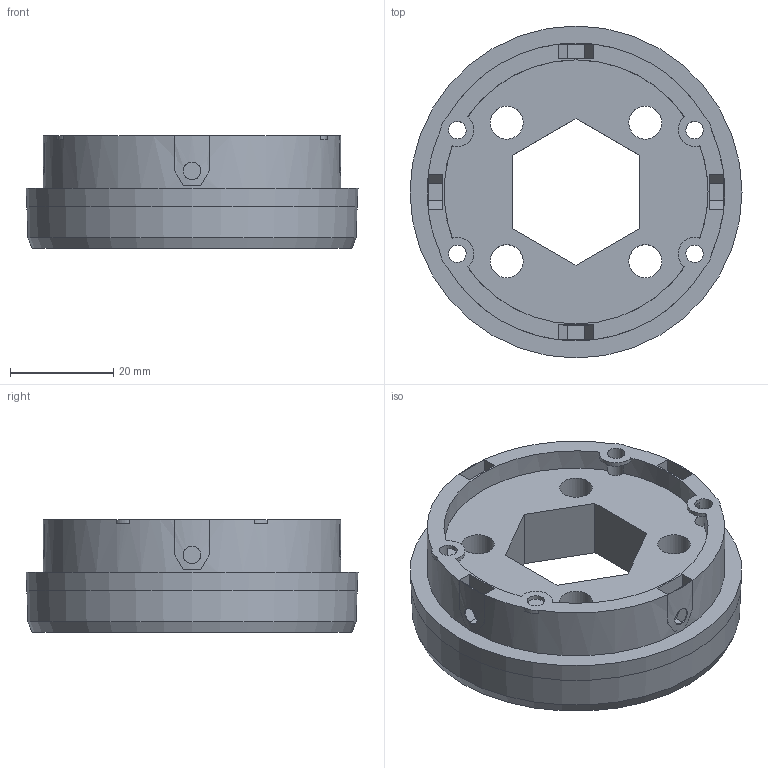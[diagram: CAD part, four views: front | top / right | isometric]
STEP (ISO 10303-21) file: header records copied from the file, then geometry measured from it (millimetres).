
FILE_DESCRIPTION(('FreeCAD Model'),'2;1');
FILE_NAME('Open CASCADE Shape Model','2026-09-19T17:54:12',('FreeCAD'),( 'FreeCAD'),'Open CASCADE STEP processor 7.8','FreeCAD','Unknown');
FILE_SCHEMA(('AUTOMOTIVE_DESIGN { 1 0 10303 214 1 1 1 1 }'));
Length unit declared in the file: millimetre
Products named in the file (1): Open CASCADE STEP translator 7.8 10
Bounding box: 64.36 x 64.36 x 21.8 mm (x, y, z)
Volume: 33866.2 mm3; surface area: 14106.1 mm2
Topology: 1 solids, 1 shells, 95 faces, 302 edges, 209 vertices
Faces by surface type: plane 59, cylinder 33, cone 3
Full cylindrical faces by diameter (mm): 3.4 x12, 6.4 x4, 57.7 x1
Entity records: 3689 total; most frequent: CARTESIAN_POINT 800, DIRECTION 617, ORIENTED_EDGE 604, EDGE_CURVE 302, AXIS2_PLACEMENT_3D 224, VERTEX_POINT 209, LINE 169, VECTOR 169
